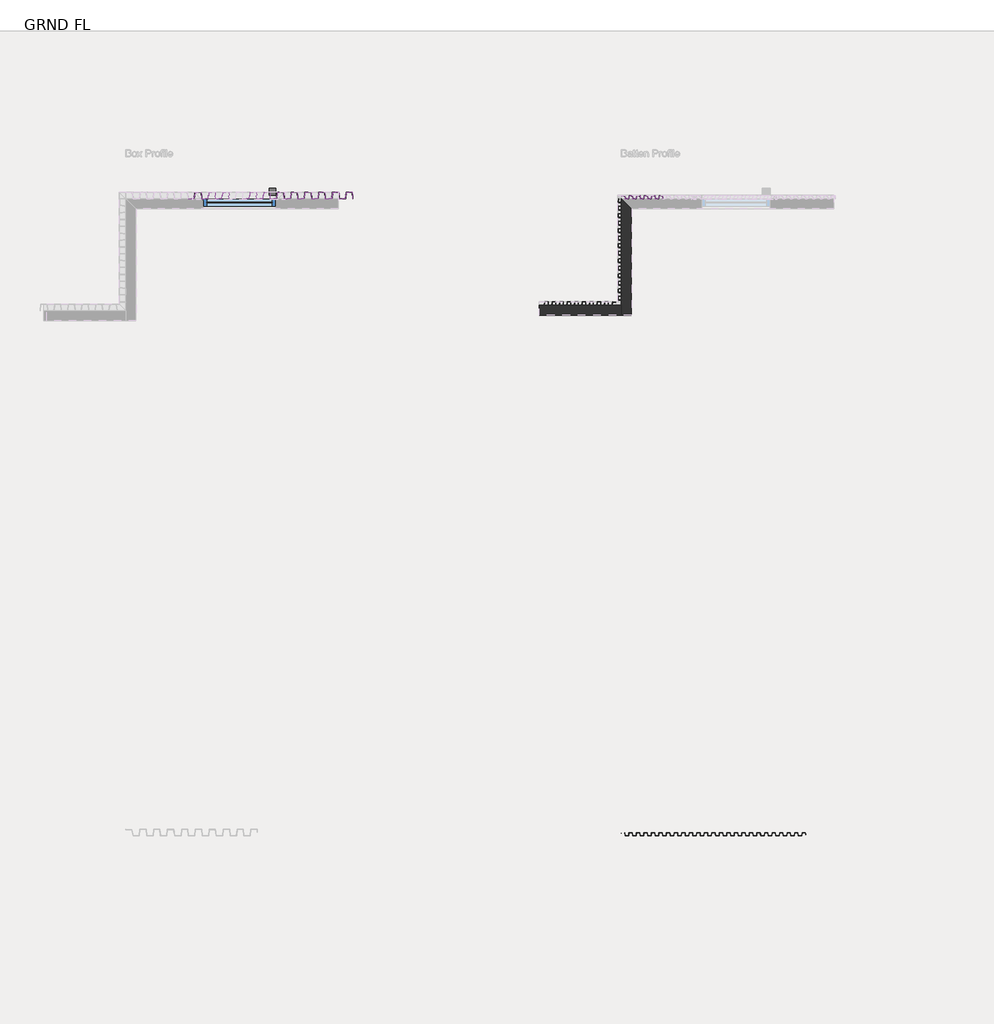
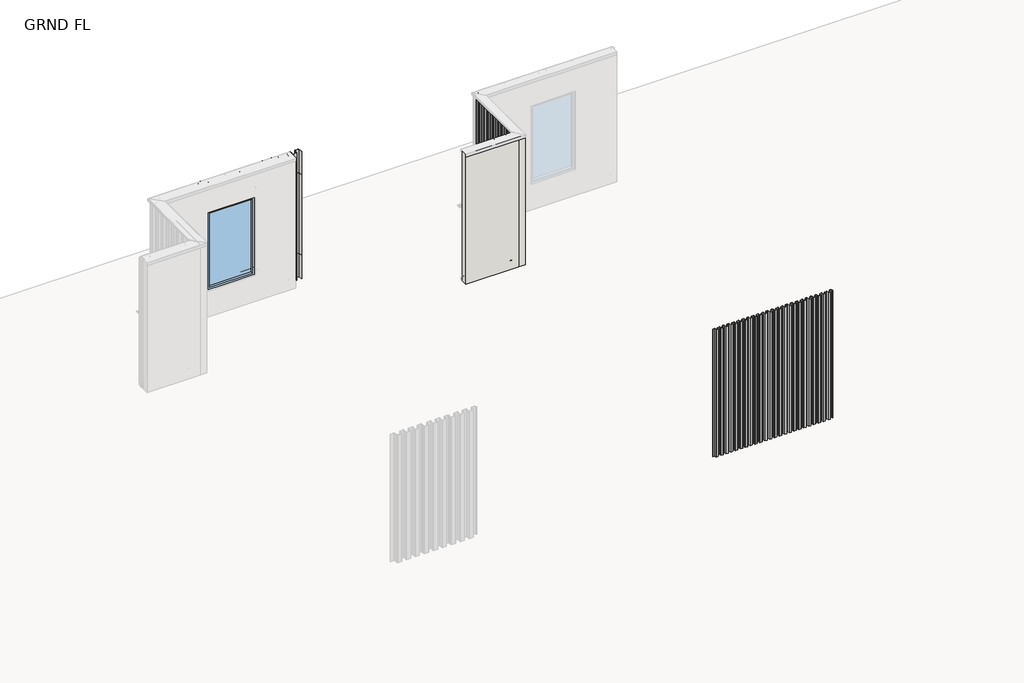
# One storey, part 5 of 13: 101 members, 2 walls, 1 plate, 1 window.
"""IFC4 building model written with IfcOpenShell, lengths in millimetres."""

from ifc_helpers import new_model, si_unit, frame, origin, place, context, project, spatial, polyline, outline, extrude, faceted_brep, transform, mapped, element, save
from components import rectangular_mullion_2d550053, rectangular_mullion_f7867c98, rectangular_mullion_3ec16531, rectangular_mullion_c30dfc19, rectangular_mullion_5f9ddbf5, rectangular_mullion_41e84d55, rectangular_mullion_7cdc1a84, rectangular_mullion_3e9ea180, rectangular_mullion_119e265c, rectangular_mullion_f8ecf559, rectangular_mullion_e0d82e72, rectangular_mullion_8aa512d7, rectangular_mullion_19053268, rectangular_mullion_ffc48b18, rectangular_mullion_33439367, rectangular_mullion_dff8aeb3, rectangular_mullion_1d10df30, rectangular_mullion_365e98fb, rectangular_mullion_46f464e6, rectangular_mullion_b07479b3, empty_system_panel_empty_35289bfe, window_83078953

model = new_model("IFC4")

# Units and contexts
model_context = context("Model", 3, world=origin())
ifc_project = project(units=[si_unit("LENGTHUNIT", "METRE", prefix="MILLI")], contexts=[model_context])

# Site, building, storey
site = spatial("IfcSite", under=ifc_project)
building = spatial("IfcBuilding", under=site)
storey = spatial("IfcBuildingStorey", under=building, Name="GRND FL", Elevation=35277.5920148)

# Members
placement = place(None, origin())
rectangular_mullion_shape = rectangular_mullion_2d550053(model_context)
element("IfcMember", 1, ObjectType="Rectangular Mullion : CD_NINELINE_Box Intermediate", at=placement, inside=storey, context=model_context, shape_type="MappedRepresentation", body=[
    mapped(rectangular_mullion_shape, transform((63731.961255, -3745.6146039, 35330.5920148), x_axis=(1.0, 0.0, 0.0), y_axis=(0.0, -1.0, 0.0), z_axis=(0.0, 0.0, -1.0))),
])
element("IfcMember", 2, ObjectType="Rectangular Mullion : CD_NINELINE_Box Intermediate", at=placement, inside=storey, context=model_context, shape_type="MappedRepresentation", body=[
    mapped(rectangular_mullion_shape, transform((63925.961255, -3745.6146039, 35330.5920148), x_axis=(1.0, 0.0, 0.0), y_axis=(0.0, -1.0, 0.0), z_axis=(0.0, 0.0, -1.0))),
])
element("IfcMember", 3, ObjectType="Rectangular Mullion : CD_NINELINE_Box Intermediate", at=placement, inside=storey, context=model_context, shape_type="MappedRepresentation", body=[
    mapped(rectangular_mullion_shape, transform((64119.961255, -3745.6146039, 35330.5920148), x_axis=(1.0, 0.0, 0.0), y_axis=(0.0, -1.0, 0.0), z_axis=(0.0, 0.0, -1.0))),
])
element("IfcMember", 4, ObjectType="Rectangular Mullion : CD_NINELINE_Box Intermediate", at=placement, inside=storey, context=model_context, shape_type="MappedRepresentation", body=[
    mapped(rectangular_mullion_shape, transform((64313.961255, -3745.6146039, 35330.5920148), x_axis=(1.0, 0.0, 0.0), y_axis=(0.0, -1.0, 0.0), z_axis=(0.0, 0.0, -1.0))),
])
element("IfcMember", 5, ObjectType="Rectangular Mullion : CD_NINELINE_Box Intermediate", at=placement, inside=storey, context=model_context, shape_type="MappedRepresentation", body=[
    mapped(rectangular_mullion_shape, transform((64507.961255, -3745.6146039, 35330.5920148), x_axis=(1.0, 0.0, 0.0), y_axis=(0.0, -1.0, 0.0), z_axis=(0.0, 0.0, -1.0))),
])
element("IfcMember", 6, ObjectType="Rectangular Mullion : CD_NINELINE_Box Intermediate", at=placement, inside=storey, context=model_context, shape_type="MappedRepresentation", body=[
    mapped(rectangular_mullion_shape, transform((63149.961255, -3745.6146039, 35330.5920148), x_axis=(1.0, 0.0, 0.0), y_axis=(0.0, -1.0, 0.0), z_axis=(0.0, 0.0, -1.0))),
])
element("IfcMember", 7, ObjectType="Rectangular Mullion : CD_NINELINE_Box Intermediate", at=placement, inside=storey, context=model_context, shape_type="MappedRepresentation", body=[
    mapped(rectangular_mullion_shape, transform((63343.961255, -3745.6146039, 35330.5920148), x_axis=(1.0, 0.0, 0.0), y_axis=(0.0, -1.0, 0.0), z_axis=(0.0, 0.0, -1.0))),
])
element("IfcMember", 8, ObjectType="Rectangular Mullion : CD_NINELINE_Box Intermediate", at=placement, inside=storey, context=model_context, shape_type="MappedRepresentation", body=[
    mapped(rectangular_mullion_shape, transform((63537.961255, -3745.6146039, 35330.5920148), x_axis=(1.0, 0.0, 0.0), y_axis=(0.0, -1.0, 0.0), z_axis=(0.0, 0.0, -1.0))),
])
element("IfcMember", 9, ObjectType="Rectangular Mullion : CD_NINELINE_Box Intermediate", at=placement, inside=storey, context=model_context, shape_type="MappedRepresentation", body=[
    mapped(rectangular_mullion_shape, transform((62955.961255, -3745.6146039, 35330.5920148), x_axis=(1.0, 0.0, 0.0), y_axis=(0.0, -1.0, 0.0), z_axis=(0.0, 0.0, -1.0))),
])
rectangular_mullion_2_shape = rectangular_mullion_f7867c98(model_context)
element("IfcMember", 10, ObjectType="Rectangular Mullion : CD_NINELINE_Box End", at=placement, inside=storey, context=model_context, shape_type="MappedRepresentation", body=[
    mapped(rectangular_mullion_2_shape, transform((64508.9961337, -3745.6146039, 35330.5920148), x_axis=(1.0, 0.0, 0.0), y_axis=(0.0, -1.0, 0.0), z_axis=(0.0, 0.0, -1.0))),
])
rectangular_mullion_3_shape = rectangular_mullion_3ec16531(model_context)
element("IfcMember", 11, ObjectType="Rectangular Mullion : CD_NINELINE_Box Intermediate", at=placement, inside=storey, context=model_context, shape_type="MappedRepresentation", body=[
    mapped(rectangular_mullion_3_shape, transform((63731.961255, -3745.6146039, 37732.5920148), x_axis=(1.0, 0.0, 0.0), y_axis=(0.0, -1.0, 0.0), z_axis=(0.0, 0.0, -1.0))),
])
element("IfcMember", 12, ObjectType="Rectangular Mullion : CD_NINELINE_Box Intermediate", at=placement, inside=storey, context=model_context, shape_type="MappedRepresentation", body=[
    mapped(rectangular_mullion_3_shape, transform((63925.961255, -3745.6146039, 37732.5920148), x_axis=(1.0, 0.0, 0.0), y_axis=(0.0, -1.0, 0.0), z_axis=(0.0, 0.0, -1.0))),
])
element("IfcMember", 13, ObjectType="Rectangular Mullion : CD_NINELINE_Box Intermediate", at=placement, inside=storey, context=model_context, shape_type="MappedRepresentation", body=[
    mapped(rectangular_mullion_3_shape, transform((64119.961255, -3745.6146039, 37732.5920148), x_axis=(1.0, 0.0, 0.0), y_axis=(0.0, -1.0, 0.0), z_axis=(0.0, 0.0, -1.0))),
])
element("IfcMember", 14, ObjectType="Rectangular Mullion : CD_NINELINE_Box Intermediate", at=placement, inside=storey, context=model_context, shape_type="MappedRepresentation", body=[
    mapped(rectangular_mullion_3_shape, transform((64313.961255, -3745.6146039, 37732.5920148), x_axis=(1.0, 0.0, 0.0), y_axis=(0.0, -1.0, 0.0), z_axis=(0.0, 0.0, -1.0))),
])
element("IfcMember", 15, ObjectType="Rectangular Mullion : CD_NINELINE_Box Intermediate", at=placement, inside=storey, context=model_context, shape_type="MappedRepresentation", body=[
    mapped(rectangular_mullion_3_shape, transform((64507.961255, -3745.6146039, 37732.5920148), x_axis=(1.0, 0.0, 0.0), y_axis=(0.0, -1.0, 0.0), z_axis=(0.0, 0.0, -1.0))),
])
rectangular_mullion_4_shape = rectangular_mullion_c30dfc19(model_context)
element("IfcMember", 16, ObjectType="Rectangular Mullion : CD_NINELINE_Box Intermediate", at=placement, inside=storey, context=model_context, shape_type="MappedRepresentation", body=[
    mapped(rectangular_mullion_4_shape, transform((63731.961255, -3745.6146039, 35872.5920148), x_axis=(1.0, 0.0, 0.0), y_axis=(0.0, -1.0, 0.0), z_axis=(0.0, 0.0, -1.0))),
])
element("IfcMember", 17, ObjectType="Rectangular Mullion : CD_NINELINE_Box Intermediate", at=placement, inside=storey, context=model_context, shape_type="MappedRepresentation", body=[
    mapped(rectangular_mullion_4_shape, transform((63925.961255, -3745.6146039, 35872.5920148), x_axis=(1.0, 0.0, 0.0), y_axis=(0.0, -1.0, 0.0), z_axis=(0.0, 0.0, -1.0))),
])
element("IfcMember", 18, ObjectType="Rectangular Mullion : CD_NINELINE_Box Intermediate", at=placement, inside=storey, context=model_context, shape_type="MappedRepresentation", body=[
    mapped(rectangular_mullion_4_shape, transform((64119.961255, -3745.6146039, 35872.5920148), x_axis=(1.0, 0.0, 0.0), y_axis=(0.0, -1.0, 0.0), z_axis=(0.0, 0.0, -1.0))),
])
element("IfcMember", 19, ObjectType="Rectangular Mullion : CD_NINELINE_Box Intermediate", at=placement, inside=storey, context=model_context, shape_type="MappedRepresentation", body=[
    mapped(rectangular_mullion_4_shape, transform((64313.961255, -3745.6146039, 35872.5920148), x_axis=(1.0, 0.0, 0.0), y_axis=(0.0, -1.0, 0.0), z_axis=(0.0, 0.0, -1.0))),
])
element("IfcMember", 20, ObjectType="Rectangular Mullion : CD_NINELINE_Box Intermediate", at=placement, inside=storey, context=model_context, shape_type="MappedRepresentation", body=[
    mapped(rectangular_mullion_4_shape, transform((64507.961255, -3745.6146039, 35872.5920148), x_axis=(1.0, 0.0, 0.0), y_axis=(0.0, -1.0, 0.0), z_axis=(0.0, 0.0, -1.0))),
])
element("IfcMember", 21, ObjectType="Rectangular Mullion : CD_NINELINE_Box Intermediate", at=placement, inside=storey, context=model_context, shape_type="MappedRepresentation", body=[
    mapped(rectangular_mullion_3_shape, transform((62761.961255, -3745.6146039, 37732.5920148), x_axis=(1.0, 0.0, 0.0), y_axis=(0.0, -1.0, 0.0), z_axis=(0.0, 0.0, -1.0))),
])
element("IfcMember", 22, ObjectType="Rectangular Mullion : CD_NINELINE_Box Intermediate", at=placement, inside=storey, context=model_context, shape_type="MappedRepresentation", body=[
    mapped(rectangular_mullion_3_shape, transform((63149.961255, -3745.6146039, 37732.5920148), x_axis=(1.0, 0.0, 0.0), y_axis=(0.0, -1.0, 0.0), z_axis=(0.0, 0.0, -1.0))),
])
element("IfcMember", 23, ObjectType="Rectangular Mullion : CD_NINELINE_Box Intermediate", at=placement, inside=storey, context=model_context, shape_type="MappedRepresentation", body=[
    mapped(rectangular_mullion_3_shape, transform((63343.961255, -3745.6146039, 37732.5920148), x_axis=(1.0, 0.0, 0.0), y_axis=(0.0, -1.0, 0.0), z_axis=(0.0, 0.0, -1.0))),
])
element("IfcMember", 24, ObjectType="Rectangular Mullion : CD_NINELINE_Box Intermediate", at=placement, inside=storey, context=model_context, shape_type="MappedRepresentation", body=[
    mapped(rectangular_mullion_3_shape, transform((62373.961255, -3745.6146039, 37732.5920148), x_axis=(1.0, 0.0, 0.0), y_axis=(0.0, -1.0, 0.0), z_axis=(0.0, 0.0, -1.0))),
])
element("IfcMember", 25, ObjectType="Rectangular Mullion : CD_NINELINE_Box Intermediate", at=placement, inside=storey, context=model_context, shape_type="MappedRepresentation", body=[
    mapped(rectangular_mullion_3_shape, transform((62567.961255, -3745.6146039, 37732.5920148), x_axis=(1.0, 0.0, 0.0), y_axis=(0.0, -1.0, 0.0), z_axis=(0.0, 0.0, -1.0))),
])
element("IfcMember", 26, ObjectType="Rectangular Mullion : CD_NINELINE_Box Intermediate", at=placement, inside=storey, context=model_context, shape_type="MappedRepresentation", body=[
    mapped(rectangular_mullion_3_shape, transform((63537.961255, -3745.6146039, 37732.5920148), x_axis=(1.0, 0.0, 0.0), y_axis=(0.0, -1.0, 0.0), z_axis=(0.0, 0.0, -1.0))),
])
rectangular_mullion_5_shape = rectangular_mullion_5f9ddbf5(model_context)
element("IfcMember", 27, ObjectType="Rectangular Mullion : CD_NINELINE_Box End", at=placement, inside=storey, context=model_context, shape_type="MappedRepresentation", body=[
    mapped(rectangular_mullion_5_shape, transform((64508.9961337, -3745.6146039, 37732.5920148), x_axis=(1.0, 0.0, 0.0), y_axis=(0.0, -1.0, 0.0), z_axis=(0.0, 0.0, -1.0))),
])
rectangular_mullion_6_shape = rectangular_mullion_41e84d55(model_context)
element("IfcMember", 28, ObjectType="Rectangular Mullion : CD_NINELINE_Box End", at=placement, inside=storey, context=model_context, shape_type="MappedRepresentation", body=[
    mapped(rectangular_mullion_6_shape, transform((64508.9961337, -3745.6146039, 35872.5920148), x_axis=(1.0, 0.0, 0.0), y_axis=(0.0, -1.0, 0.0), z_axis=(0.0, 0.0, -1.0))),
])
rectangular_mullion_7_shape = rectangular_mullion_7cdc1a84(model_context)
element("IfcMember", 29, ObjectType="Rectangular Mullion : CD_NINELINE_Box Intermediate 20mm pan", at=placement, inside=storey, context=model_context, shape_type="MappedRepresentation", body=[
    mapped(rectangular_mullion_7_shape, transform((63537.961255, -3745.6146039, 35872.5920148), x_axis=(1.0, 0.0, 0.0), y_axis=(0.0, -1.0, 0.0), z_axis=(0.0, 0.0, -1.0))),
])
rectangular_mullion_8_shape = rectangular_mullion_3e9ea180(model_context)
element("IfcMember", 30, ObjectType="Rectangular Mullion : CD_NINELINE_Box Intermediate w Extension", at=placement, inside=storey, context=model_context, shape_type="MappedRepresentation", body=[
    mapped(rectangular_mullion_8_shape, transform((62373.961255, -3745.6146039, 35872.5920148), x_axis=(1.0, 0.0, 0.0), y_axis=(0.0, -1.0, 0.0), z_axis=(0.0, 0.0, -1.0))),
])
rectangular_mullion_9_shape = rectangular_mullion_119e265c(model_context)
element("IfcMember", 31, ObjectType="Rectangular Mullion : CD_NINELINE_Batten Intermediate", at=placement, inside=storey, context=model_context, shape_type="MappedRepresentation", body=[
    mapped(rectangular_mullion_9_shape, transform((68549.9888682, -3745.6146039, 37732.5920148), x_axis=(1.0, 0.0, 0.0), y_axis=(0.0, -1.0, 0.0), z_axis=(0.0, 0.0, -1.0))),
])
element("IfcMember", 32, ObjectType="Rectangular Mullion : CD_NINELINE_Batten Intermediate", at=placement, inside=storey, context=model_context, shape_type="MappedRepresentation", body=[
    mapped(rectangular_mullion_9_shape, transform((68655.9888682, -3745.6146039, 37732.5920148), x_axis=(1.0, 0.0, 0.0), y_axis=(0.0, -1.0, 0.0), z_axis=(0.0, 0.0, -1.0))),
])
element("IfcMember", 33, ObjectType="Rectangular Mullion : CD_NINELINE_Batten Intermediate", at=placement, inside=storey, context=model_context, shape_type="MappedRepresentation", body=[
    mapped(rectangular_mullion_9_shape, transform((68761.9888682, -3745.6146039, 37732.5920148), x_axis=(1.0, 0.0, 0.0), y_axis=(0.0, -1.0, 0.0), z_axis=(0.0, 0.0, -1.0))),
])
element("IfcMember", 34, ObjectType="Rectangular Mullion : CD_NINELINE_Batten Intermediate", at=placement, inside=storey, context=model_context, shape_type="MappedRepresentation", body=[
    mapped(rectangular_mullion_9_shape, transform((68867.9888682, -3745.6146039, 37732.5920148), x_axis=(1.0, 0.0, 0.0), y_axis=(0.0, -1.0, 0.0), z_axis=(0.0, 0.0, -1.0))),
])
element("IfcMember", 35, ObjectType="Rectangular Mullion : CD_NINELINE_Batten Intermediate", at=placement, inside=storey, context=model_context, shape_type="MappedRepresentation", body=[
    mapped(rectangular_mullion_9_shape, transform((68973.9888682, -3745.6146039, 37732.5920148), x_axis=(1.0, 0.0, 0.0), y_axis=(0.0, -1.0, 0.0), z_axis=(0.0, 0.0, -1.0))),
])
rectangular_mullion_10_shape = rectangular_mullion_f8ecf559(model_context)
element("IfcMember", 36, ObjectType="Rectangular Mullion : CD_NINELINE_Batten Start", at=placement, inside=storey, context=model_context, shape_type="MappedRepresentation", body=[
    mapped(rectangular_mullion_10_shape, transform((68495.5859473, -3745.6146039, 38272.5920148), x_axis=(-1.0, 0.0, 0.0), y_axis=(0.0, -1.0, 0.0), z_axis=(0.0, 0.0, 1.0))),
])
rectangular_mullion_11_shape = rectangular_mullion_e0d82e72(model_context)
element("IfcMember", 37, ObjectType="Rectangular Mullion : CD_NINELINE_Batten Intermediate", at=placement, inside=storey, context=model_context, shape_type="MappedRepresentation", body=[
    mapped(rectangular_mullion_11_shape, transform((68549.9888682, -3745.6146039, 35330.5920148), x_axis=(1.0, 0.0, 0.0), y_axis=(0.0, -1.0, 0.0), z_axis=(0.0, 0.0, -1.0))),
])
element("IfcMember", 38, ObjectType="Rectangular Mullion : CD_NINELINE_Batten Intermediate", at=placement, inside=storey, context=model_context, shape_type="MappedRepresentation", body=[
    mapped(rectangular_mullion_11_shape, transform((68655.9888682, -3745.6146039, 35330.5920148), x_axis=(1.0, 0.0, 0.0), y_axis=(0.0, -1.0, 0.0), z_axis=(0.0, 0.0, -1.0))),
])
element("IfcMember", 39, ObjectType="Rectangular Mullion : CD_NINELINE_Batten Intermediate", at=placement, inside=storey, context=model_context, shape_type="MappedRepresentation", body=[
    mapped(rectangular_mullion_11_shape, transform((68761.9888682, -3745.6146039, 35330.5920148), x_axis=(1.0, 0.0, 0.0), y_axis=(0.0, -1.0, 0.0), z_axis=(0.0, 0.0, -1.0))),
])
element("IfcMember", 40, ObjectType="Rectangular Mullion : CD_NINELINE_Batten Intermediate", at=placement, inside=storey, context=model_context, shape_type="MappedRepresentation", body=[
    mapped(rectangular_mullion_11_shape, transform((68867.9888682, -3745.6146039, 35330.5920148), x_axis=(1.0, 0.0, 0.0), y_axis=(0.0, -1.0, 0.0), z_axis=(0.0, 0.0, -1.0))),
])
element("IfcMember", 41, ObjectType="Rectangular Mullion : CD_NINELINE_Batten Intermediate", at=placement, inside=storey, context=model_context, shape_type="MappedRepresentation", body=[
    mapped(rectangular_mullion_11_shape, transform((68973.9888682, -3745.6146039, 35330.5920148), x_axis=(1.0, 0.0, 0.0), y_axis=(0.0, -1.0, 0.0), z_axis=(0.0, 0.0, -1.0))),
])
rectangular_mullion_12_shape = rectangular_mullion_8aa512d7(model_context)
element("IfcMember", 42, ObjectType="Rectangular Mullion : CD_NINELINE_Batten Intermediate", at=placement, inside=storey, context=model_context, shape_type="MappedRepresentation", body=[
    mapped(rectangular_mullion_12_shape, transform((68549.9888682, -3745.6146039, 35877.5920148), x_axis=(1.0, 0.0, 0.0), y_axis=(0.0, -1.0, 0.0), z_axis=(0.0, 0.0, -1.0))),
])
element("IfcMember", 43, ObjectType="Rectangular Mullion : CD_NINELINE_Batten Intermediate", at=placement, inside=storey, context=model_context, shape_type="MappedRepresentation", body=[
    mapped(rectangular_mullion_12_shape, transform((68655.9888682, -3745.6146039, 35877.5920148), x_axis=(1.0, 0.0, 0.0), y_axis=(0.0, -1.0, 0.0), z_axis=(0.0, 0.0, -1.0))),
])
element("IfcMember", 44, ObjectType="Rectangular Mullion : CD_NINELINE_Batten Intermediate", at=placement, inside=storey, context=model_context, shape_type="MappedRepresentation", body=[
    mapped(rectangular_mullion_12_shape, transform((68761.9888682, -3745.6146039, 35877.5920148), x_axis=(1.0, 0.0, 0.0), y_axis=(0.0, -1.0, 0.0), z_axis=(0.0, 0.0, -1.0))),
])
element("IfcMember", 45, ObjectType="Rectangular Mullion : CD_NINELINE_Batten Intermediate", at=placement, inside=storey, context=model_context, shape_type="MappedRepresentation", body=[
    mapped(rectangular_mullion_12_shape, transform((68867.9888682, -3745.6146039, 35877.5920148), x_axis=(1.0, 0.0, 0.0), y_axis=(0.0, -1.0, 0.0), z_axis=(0.0, 0.0, -1.0))),
])
element("IfcMember", 46, ObjectType="Rectangular Mullion : CD_NINELINE_Batten Intermediate", at=placement, inside=storey, context=model_context, shape_type="MappedRepresentation", body=[
    mapped(rectangular_mullion_12_shape, transform((68973.9888682, -3745.6146039, 35877.5920148), x_axis=(1.0, 0.0, 0.0), y_axis=(0.0, -1.0, 0.0), z_axis=(0.0, 0.0, -1.0))),
])
rectangular_mullion_13_shape = rectangular_mullion_19053268(model_context)
element("IfcMember", 47, ObjectType="Rectangular Mullion : CD_NINELINE_Batten Start", at=placement, inside=storey, context=model_context, shape_type="MappedRepresentation", body=[
    mapped(rectangular_mullion_13_shape, transform((68495.5859473, -3745.6146039, 37732.5920148), x_axis=(-1.0, 0.0, 0.0), y_axis=(0.0, -1.0, 0.0), z_axis=(0.0, 0.0, 1.0))),
])
rectangular_mullion_14_shape = rectangular_mullion_ffc48b18(model_context)
element("IfcMember", 48, ObjectType="Rectangular Mullion : CD_NINELINE_Batten Start", at=placement, inside=storey, context=model_context, shape_type="MappedRepresentation", body=[
    mapped(rectangular_mullion_14_shape, transform((68495.5859473, -3745.6146039, 35877.5920148), x_axis=(-1.0, 0.0, 0.0), y_axis=(0.0, -1.0, 0.0), z_axis=(0.0, 0.0, 1.0))),
])
rectangular_mullion_15_shape = rectangular_mullion_33439367(model_context)
element("IfcMember", 49, ObjectType="Rectangular Mullion : CD_NINELINE_Batten Intermediate", at=placement, inside=storey, context=model_context, shape_type="MappedRepresentation", body=[
    mapped(rectangular_mullion_15_shape, transform((67725.0926307, -5248.1146039, 35330.5920148), x_axis=(-1.0, 0.0, 0.0), y_axis=(0.0, 1.0, 0.0), z_axis=(0.0, 0.0, -1.0))),
])
element("IfcMember", 50, ObjectType="Rectangular Mullion : CD_NINELINE_Batten Intermediate", at=placement, inside=storey, context=model_context, shape_type="MappedRepresentation", body=[
    mapped(rectangular_mullion_15_shape, transform((67619.0926307, -5248.1146039, 35330.5920148), x_axis=(-1.0, 0.0, 0.0), y_axis=(0.0, 1.0, 0.0), z_axis=(0.0, 0.0, -1.0))),
])
element("IfcMember", 51, ObjectType="Rectangular Mullion : CD_NINELINE_Batten Intermediate", at=placement, inside=storey, context=model_context, shape_type="MappedRepresentation", body=[
    mapped(rectangular_mullion_15_shape, transform((67513.0926307, -5248.1146039, 35330.5920148), x_axis=(-1.0, 0.0, 0.0), y_axis=(0.0, 1.0, 0.0), z_axis=(0.0, 0.0, -1.0))),
])
element("IfcMember", 52, ObjectType="Rectangular Mullion : CD_NINELINE_Batten Intermediate", at=placement, inside=storey, context=model_context, shape_type="MappedRepresentation", body=[
    mapped(rectangular_mullion_15_shape, transform((67831.0926307, -5248.1146039, 35330.5920148), x_axis=(-1.0, 0.0, 0.0), y_axis=(0.0, 1.0, 0.0), z_axis=(0.0, 0.0, -1.0))),
])
element("IfcMember", 53, ObjectType="Rectangular Mullion : CD_NINELINE_Batten Intermediate", at=placement, inside=storey, context=model_context, shape_type="MappedRepresentation", body=[
    mapped(rectangular_mullion_15_shape, transform((68493.6836337, -4225.9637895, 35330.5920148), x_axis=(0.0, -1.0, 0.0), y_axis=(-1.0, 0.0, 0.0), z_axis=(0.0, 0.0, -1.0))),
])
element("IfcMember", 54, ObjectType="Rectangular Mullion : CD_NINELINE_Batten Intermediate", at=placement, inside=storey, context=model_context, shape_type="MappedRepresentation", body=[
    mapped(rectangular_mullion_15_shape, transform((68493.6836337, -4331.9637895, 35330.5920148), x_axis=(0.0, -1.0, 0.0), y_axis=(-1.0, 0.0, 0.0), z_axis=(0.0, 0.0, -1.0))),
])
element("IfcMember", 55, ObjectType="Rectangular Mullion : CD_NINELINE_Batten Intermediate", at=placement, inside=storey, context=model_context, shape_type="MappedRepresentation", body=[
    mapped(rectangular_mullion_15_shape, transform((68493.6836337, -4119.9637895, 35330.5920148), x_axis=(0.0, -1.0, 0.0), y_axis=(-1.0, 0.0, 0.0), z_axis=(0.0, 0.0, -1.0))),
])
element("IfcMember", 56, ObjectType="Rectangular Mullion : CD_NINELINE_Batten Intermediate", at=placement, inside=storey, context=model_context, shape_type="MappedRepresentation", body=[
    mapped(rectangular_mullion_15_shape, transform((68493.6836337, -4013.9637895, 35330.5920148), x_axis=(0.0, -1.0, 0.0), y_axis=(-1.0, 0.0, 0.0), z_axis=(0.0, 0.0, -1.0))),
])
element("IfcMember", 57, ObjectType="Rectangular Mullion : CD_NINELINE_Batten Intermediate", at=placement, inside=storey, context=model_context, shape_type="MappedRepresentation", body=[
    mapped(rectangular_mullion_15_shape, transform((68493.6836337, -3907.9637895, 35330.5920148), x_axis=(0.0, -1.0, 0.0), y_axis=(-1.0, 0.0, 0.0), z_axis=(0.0, 0.0, -1.0))),
])
element("IfcMember", 58, ObjectType="Rectangular Mullion : CD_NINELINE_Batten Intermediate", at=placement, inside=storey, context=model_context, shape_type="MappedRepresentation", body=[
    mapped(rectangular_mullion_15_shape, transform((68493.6836337, -3801.9637895, 35330.5920148), x_axis=(0.0, -1.0, 0.0), y_axis=(-1.0, 0.0, 0.0), z_axis=(0.0, 0.0, -1.0))),
])
element("IfcMember", 59, ObjectType="Rectangular Mullion : CD_NINELINE_Batten Intermediate", at=placement, inside=storey, context=model_context, shape_type="MappedRepresentation", body=[
    mapped(rectangular_mullion_15_shape, transform((68493.6836337, -4437.9637895, 35330.5920148), x_axis=(0.0, -1.0, 0.0), y_axis=(-1.0, 0.0, 0.0), z_axis=(0.0, 0.0, -1.0))),
])
element("IfcMember", 60, ObjectType="Rectangular Mullion : CD_NINELINE_Batten Intermediate", at=placement, inside=storey, context=model_context, shape_type="MappedRepresentation", body=[
    mapped(rectangular_mullion_15_shape, transform((67937.0926307, -5248.1146039, 35330.5920148), x_axis=(-1.0, 0.0, 0.0), y_axis=(0.0, 1.0, 0.0), z_axis=(0.0, 0.0, -1.0))),
])
element("IfcMember", 61, ObjectType="Rectangular Mullion : CD_NINELINE_Batten Intermediate", at=placement, inside=storey, context=model_context, shape_type="MappedRepresentation", body=[
    mapped(rectangular_mullion_15_shape, transform((68493.6836337, -4543.9637895, 35330.5920148), x_axis=(0.0, -1.0, 0.0), y_axis=(-1.0, 0.0, 0.0), z_axis=(0.0, 0.0, -1.0))),
])
element("IfcMember", 62, ObjectType="Rectangular Mullion : CD_NINELINE_Batten Intermediate", at=placement, inside=storey, context=model_context, shape_type="MappedRepresentation", body=[
    mapped(rectangular_mullion_15_shape, transform((68493.6836337, -4649.9637895, 35330.5920148), x_axis=(0.0, -1.0, 0.0), y_axis=(-1.0, 0.0, 0.0), z_axis=(0.0, 0.0, -1.0))),
])
element("IfcMember", 63, ObjectType="Rectangular Mullion : CD_NINELINE_Batten Intermediate", at=placement, inside=storey, context=model_context, shape_type="MappedRepresentation", body=[
    mapped(rectangular_mullion_15_shape, transform((68493.6836337, -4755.9637895, 35330.5920148), x_axis=(0.0, -1.0, 0.0), y_axis=(-1.0, 0.0, 0.0), z_axis=(0.0, 0.0, -1.0))),
])
element("IfcMember", 64, ObjectType="Rectangular Mullion : CD_NINELINE_Batten Intermediate", at=placement, inside=storey, context=model_context, shape_type="MappedRepresentation", body=[
    mapped(rectangular_mullion_15_shape, transform((68493.6836337, -4861.9637895, 35330.5920148), x_axis=(0.0, -1.0, 0.0), y_axis=(-1.0, 0.0, 0.0), z_axis=(0.0, 0.0, -1.0))),
])
element("IfcMember", 65, ObjectType="Rectangular Mullion : CD_NINELINE_Batten Intermediate", at=placement, inside=storey, context=model_context, shape_type="MappedRepresentation", body=[
    mapped(rectangular_mullion_15_shape, transform((68493.6836337, -4967.9637895, 35330.5920148), x_axis=(0.0, -1.0, 0.0), y_axis=(-1.0, 0.0, 0.0), z_axis=(0.0, 0.0, -1.0))),
])
element("IfcMember", 66, ObjectType="Rectangular Mullion : CD_NINELINE_Batten Intermediate", at=placement, inside=storey, context=model_context, shape_type="MappedRepresentation", body=[
    mapped(rectangular_mullion_15_shape, transform((68493.6836337, -5073.9637895, 35330.5920148), x_axis=(0.0, -1.0, 0.0), y_axis=(-1.0, 0.0, 0.0), z_axis=(0.0, 0.0, -1.0))),
])
element("IfcMember", 67, ObjectType="Rectangular Mullion : CD_NINELINE_Batten Intermediate", at=placement, inside=storey, context=model_context, shape_type="MappedRepresentation", body=[
    mapped(rectangular_mullion_15_shape, transform((68043.0926307, -5248.1146039, 35330.5920148), x_axis=(-1.0, 0.0, 0.0), y_axis=(0.0, 1.0, 0.0), z_axis=(0.0, 0.0, -1.0))),
])
element("IfcMember", 68, ObjectType="Rectangular Mullion : CD_NINELINE_Batten Intermediate", at=placement, inside=storey, context=model_context, shape_type="MappedRepresentation", body=[
    mapped(rectangular_mullion_15_shape, transform((68149.0926307, -5248.1146039, 35330.5920148), x_axis=(-1.0, 0.0, 0.0), y_axis=(0.0, 1.0, 0.0), z_axis=(0.0, 0.0, -1.0))),
])
element("IfcMember", 69, ObjectType="Rectangular Mullion : CD_NINELINE_Batten Intermediate", at=placement, inside=storey, context=model_context, shape_type="MappedRepresentation", body=[
    mapped(rectangular_mullion_15_shape, transform((68255.0926307, -5248.1146039, 35330.5920148), x_axis=(-1.0, 0.0, 0.0), y_axis=(0.0, 1.0, 0.0), z_axis=(0.0, 0.0, -1.0))),
])
element("IfcMember", 70, ObjectType="Rectangular Mullion : CD_NINELINE_Batten Intermediate", at=placement, inside=storey, context=model_context, shape_type="MappedRepresentation", body=[
    mapped(rectangular_mullion_15_shape, transform((68361.0926307, -5248.1146039, 35330.5920148), x_axis=(-1.0, 0.0, 0.0), y_axis=(0.0, 1.0, 0.0), z_axis=(0.0, 0.0, -1.0))),
])
rectangular_mullion_16_shape = rectangular_mullion_dff8aeb3(model_context)
element("IfcMember", 71, ObjectType="Rectangular Mullion : CD_NINELINE_Batten Start", at=placement, inside=storey, context=model_context, shape_type="MappedRepresentation", body=[
    mapped(rectangular_mullion_16_shape, transform((68415.4955515, -5248.1146039, 38272.5920148), x_axis=(1.0, 0.0, 0.0), y_axis=(0.0, 1.0, 0.0), z_axis=(0.0, 0.0, 1.0))),
])
element("IfcMember", 72, ObjectType="Rectangular Mullion : CD_NINELINE_Batten Start", at=placement, inside=storey, context=model_context, shape_type="MappedRepresentation", body=[
    mapped(rectangular_mullion_16_shape, transform((68493.6836337, -3747.5608687, 38272.5920148), x_axis=(0.0, 1.0, 0.0), y_axis=(-1.0, 0.0, 0.0), z_axis=(0.0, 0.0, 1.0))),
])
rectangular_mullion_17_shape = rectangular_mullion_1d10df30(model_context)
element("IfcMember", 73, ObjectType="Rectangular Mullion : CD_NINELINE_Batten Intermediate", at=placement, inside=storey, context=model_context, shape_type="MappedRepresentation", body=[
    mapped(rectangular_mullion_17_shape, transform((68548.0402438, -12745.6146039, 35330.5920148), x_axis=(1.0, 0.0, 0.0), y_axis=(0.0, -1.0, 0.0), z_axis=(0.0, 0.0, -1.0))),
])
element("IfcMember", 74, ObjectType="Rectangular Mullion : CD_NINELINE_Batten Intermediate", at=placement, inside=storey, context=model_context, shape_type="MappedRepresentation", body=[
    mapped(rectangular_mullion_17_shape, transform((68654.0402438, -12745.6146039, 35330.5920148), x_axis=(1.0, 0.0, 0.0), y_axis=(0.0, -1.0, 0.0), z_axis=(0.0, 0.0, -1.0))),
])
element("IfcMember", 75, ObjectType="Rectangular Mullion : CD_NINELINE_Batten Intermediate", at=placement, inside=storey, context=model_context, shape_type="MappedRepresentation", body=[
    mapped(rectangular_mullion_17_shape, transform((68760.0402438, -12745.6146039, 35330.5920148), x_axis=(1.0, 0.0, 0.0), y_axis=(0.0, -1.0, 0.0), z_axis=(0.0, 0.0, -1.0))),
])
element("IfcMember", 76, ObjectType="Rectangular Mullion : CD_NINELINE_Batten Intermediate", at=placement, inside=storey, context=model_context, shape_type="MappedRepresentation", body=[
    mapped(rectangular_mullion_17_shape, transform((68866.0402438, -12745.6146039, 35330.5920148), x_axis=(1.0, 0.0, 0.0), y_axis=(0.0, -1.0, 0.0), z_axis=(0.0, 0.0, -1.0))),
])
element("IfcMember", 77, ObjectType="Rectangular Mullion : CD_NINELINE_Batten Intermediate", at=placement, inside=storey, context=model_context, shape_type="MappedRepresentation", body=[
    mapped(rectangular_mullion_17_shape, transform((68972.0402438, -12745.6146039, 35330.5920148), x_axis=(1.0, 0.0, 0.0), y_axis=(0.0, -1.0, 0.0), z_axis=(0.0, 0.0, -1.0))),
])
element("IfcMember", 78, ObjectType="Rectangular Mullion : CD_NINELINE_Batten Intermediate", at=placement, inside=storey, context=model_context, shape_type="MappedRepresentation", body=[
    mapped(rectangular_mullion_17_shape, transform((69186.2902438, -12745.6146039, 35330.5920148), x_axis=(1.0, 0.0, 0.0), y_axis=(0.0, -1.0, 0.0), z_axis=(0.0, 0.0, -1.0))),
])
element("IfcMember", 79, ObjectType="Rectangular Mullion : CD_NINELINE_Batten Intermediate", at=placement, inside=storey, context=model_context, shape_type="MappedRepresentation", body=[
    mapped(rectangular_mullion_17_shape, transform((69292.2902438, -12745.6146039, 35330.5920148), x_axis=(1.0, 0.0, 0.0), y_axis=(0.0, -1.0, 0.0), z_axis=(0.0, 0.0, -1.0))),
])
element("IfcMember", 80, ObjectType="Rectangular Mullion : CD_NINELINE_Batten Intermediate", at=placement, inside=storey, context=model_context, shape_type="MappedRepresentation", body=[
    mapped(rectangular_mullion_17_shape, transform((69398.2902438, -12745.6146039, 35330.5920148), x_axis=(1.0, 0.0, 0.0), y_axis=(0.0, -1.0, 0.0), z_axis=(0.0, 0.0, -1.0))),
])
element("IfcMember", 81, ObjectType="Rectangular Mullion : CD_NINELINE_Batten Intermediate", at=placement, inside=storey, context=model_context, shape_type="MappedRepresentation", body=[
    mapped(rectangular_mullion_17_shape, transform((69504.2902438, -12745.6146039, 35330.5920148), x_axis=(1.0, 0.0, 0.0), y_axis=(0.0, -1.0, 0.0), z_axis=(0.0, 0.0, -1.0))),
])
element("IfcMember", 82, ObjectType="Rectangular Mullion : CD_NINELINE_Batten Intermediate", at=placement, inside=storey, context=model_context, shape_type="MappedRepresentation", body=[
    mapped(rectangular_mullion_17_shape, transform((69610.2902438, -12745.6146039, 35330.5920148), x_axis=(1.0, 0.0, 0.0), y_axis=(0.0, -1.0, 0.0), z_axis=(0.0, 0.0, -1.0))),
])
element("IfcMember", 83, ObjectType="Rectangular Mullion : CD_NINELINE_Batten Intermediate", at=placement, inside=storey, context=model_context, shape_type="MappedRepresentation", body=[
    mapped(rectangular_mullion_17_shape, transform((69824.5402438, -12745.6146039, 35330.5920148), x_axis=(1.0, 0.0, 0.0), y_axis=(0.0, -1.0, 0.0), z_axis=(0.0, 0.0, -1.0))),
])
element("IfcMember", 84, ObjectType="Rectangular Mullion : CD_NINELINE_Batten Intermediate", at=placement, inside=storey, context=model_context, shape_type="MappedRepresentation", body=[
    mapped(rectangular_mullion_17_shape, transform((69930.5402438, -12745.6146039, 35330.5920148), x_axis=(1.0, 0.0, 0.0), y_axis=(0.0, -1.0, 0.0), z_axis=(0.0, 0.0, -1.0))),
])
element("IfcMember", 85, ObjectType="Rectangular Mullion : CD_NINELINE_Batten Intermediate", at=placement, inside=storey, context=model_context, shape_type="MappedRepresentation", body=[
    mapped(rectangular_mullion_17_shape, transform((70036.5402438, -12745.6146039, 35330.5920148), x_axis=(1.0, 0.0, 0.0), y_axis=(0.0, -1.0, 0.0), z_axis=(0.0, 0.0, -1.0))),
])
element("IfcMember", 86, ObjectType="Rectangular Mullion : CD_NINELINE_Batten Intermediate", at=placement, inside=storey, context=model_context, shape_type="MappedRepresentation", body=[
    mapped(rectangular_mullion_17_shape, transform((70142.5402438, -12745.6146039, 35330.5920148), x_axis=(1.0, 0.0, 0.0), y_axis=(0.0, -1.0, 0.0), z_axis=(0.0, 0.0, -1.0))),
])
element("IfcMember", 87, ObjectType="Rectangular Mullion : CD_NINELINE_Batten Intermediate", at=placement, inside=storey, context=model_context, shape_type="MappedRepresentation", body=[
    mapped(rectangular_mullion_17_shape, transform((70248.5402438, -12745.6146039, 35330.5920148), x_axis=(1.0, 0.0, 0.0), y_axis=(0.0, -1.0, 0.0), z_axis=(0.0, 0.0, -1.0))),
])
element("IfcMember", 88, ObjectType="Rectangular Mullion : CD_NINELINE_Batten Intermediate", at=placement, inside=storey, context=model_context, shape_type="MappedRepresentation", body=[
    mapped(rectangular_mullion_17_shape, transform((70462.7902438, -12745.6146039, 35330.5920148), x_axis=(1.0, 0.0, 0.0), y_axis=(0.0, -1.0, 0.0), z_axis=(0.0, 0.0, -1.0))),
])
element("IfcMember", 89, ObjectType="Rectangular Mullion : CD_NINELINE_Batten Intermediate", at=placement, inside=storey, context=model_context, shape_type="MappedRepresentation", body=[
    mapped(rectangular_mullion_17_shape, transform((70568.7902438, -12745.6146039, 35330.5920148), x_axis=(1.0, 0.0, 0.0), y_axis=(0.0, -1.0, 0.0), z_axis=(0.0, 0.0, -1.0))),
])
element("IfcMember", 90, ObjectType="Rectangular Mullion : CD_NINELINE_Batten Intermediate", at=placement, inside=storey, context=model_context, shape_type="MappedRepresentation", body=[
    mapped(rectangular_mullion_17_shape, transform((70674.7902438, -12745.6146039, 35330.5920148), x_axis=(1.0, 0.0, 0.0), y_axis=(0.0, -1.0, 0.0), z_axis=(0.0, 0.0, -1.0))),
])
element("IfcMember", 91, ObjectType="Rectangular Mullion : CD_NINELINE_Batten Intermediate", at=placement, inside=storey, context=model_context, shape_type="MappedRepresentation", body=[
    mapped(rectangular_mullion_17_shape, transform((70780.7902438, -12745.6146039, 35330.5920148), x_axis=(1.0, 0.0, 0.0), y_axis=(0.0, -1.0, 0.0), z_axis=(0.0, 0.0, -1.0))),
])
element("IfcMember", 92, ObjectType="Rectangular Mullion : CD_NINELINE_Batten Intermediate", at=placement, inside=storey, context=model_context, shape_type="MappedRepresentation", body=[
    mapped(rectangular_mullion_17_shape, transform((70886.7902438, -12745.6146039, 35330.5920148), x_axis=(1.0, 0.0, 0.0), y_axis=(0.0, -1.0, 0.0), z_axis=(0.0, 0.0, -1.0))),
])
rectangular_mullion_18_shape = rectangular_mullion_365e98fb(model_context)
element("IfcMember", 93, ObjectType="Rectangular Mullion : CD_NINELINE_Batten Start", at=placement, inside=storey, context=model_context, shape_type="MappedRepresentation", body=[
    mapped(rectangular_mullion_18_shape, transform((68493.6836337, -12745.6146039, 38272.5920148), x_axis=(-1.0, 0.0, 0.0), y_axis=(0.0, -1.0, 0.0), z_axis=(0.0, 0.0, 1.0))),
])
element("IfcMember", 94, ObjectType="Rectangular Mullion : CD_NINELINE_Batten Start", at=placement, inside=storey, context=model_context, shape_type="MappedRepresentation", body=[
    mapped(rectangular_mullion_18_shape, transform((69131.9336337, -12745.6146039, 38272.5920148), x_axis=(-1.0, 0.0, 0.0), y_axis=(0.0, -1.0, 0.0), z_axis=(0.0, 0.0, 1.0))),
])
element("IfcMember", 95, ObjectType="Rectangular Mullion : CD_NINELINE_Batten Start", at=placement, inside=storey, context=model_context, shape_type="MappedRepresentation", body=[
    mapped(rectangular_mullion_18_shape, transform((69770.1836337, -12745.6146039, 38272.5920148), x_axis=(-1.0, 0.0, 0.0), y_axis=(0.0, -1.0, 0.0), z_axis=(0.0, 0.0, 1.0))),
])
element("IfcMember", 96, ObjectType="Rectangular Mullion : CD_NINELINE_Batten Start", at=placement, inside=storey, context=model_context, shape_type="MappedRepresentation", body=[
    mapped(rectangular_mullion_18_shape, transform((70408.4336337, -12745.6146039, 38272.5920148), x_axis=(-1.0, 0.0, 0.0), y_axis=(0.0, -1.0, 0.0), z_axis=(0.0, 0.0, 1.0))),
])
rectangular_mullion_19_shape = rectangular_mullion_46f464e6(model_context)
element("IfcMember", 97, ObjectType="Rectangular Mullion : CD_NINELINE_Batten End w Pan", at=placement, inside=storey, context=model_context, shape_type="MappedRepresentation", body=[
    mapped(rectangular_mullion_19_shape, transform((68493.6836337, -5177.5608687, 35330.5920148), x_axis=(0.0, -1.0, 0.0), y_axis=(-1.0, 0.0, 0.0), z_axis=(0.0, 0.0, -1.0))),
])
rectangular_mullion_20_shape = rectangular_mullion_b07479b3(model_context)
element("IfcMember", 98, ObjectType="Rectangular Mullion : CD_NINELINE_Batten End w Pan", at=placement, inside=storey, context=model_context, shape_type="MappedRepresentation", body=[
    mapped(rectangular_mullion_20_shape, transform((69183.6836337, -12745.6146039, 35330.5920148), x_axis=(1.0, 0.0, 0.0), y_axis=(0.0, -1.0, 0.0), z_axis=(0.0, 0.0, -1.0))),
])
element("IfcMember", 99, ObjectType="Rectangular Mullion : CD_NINELINE_Batten End w Pan", at=placement, inside=storey, context=model_context, shape_type="MappedRepresentation", body=[
    mapped(rectangular_mullion_20_shape, transform((69821.9336337, -12745.6146039, 35330.5920148), x_axis=(1.0, 0.0, 0.0), y_axis=(0.0, -1.0, 0.0), z_axis=(0.0, 0.0, -1.0))),
])
element("IfcMember", 100, ObjectType="Rectangular Mullion : CD_NINELINE_Batten End w Pan", at=placement, inside=storey, context=model_context, shape_type="MappedRepresentation", body=[
    mapped(rectangular_mullion_20_shape, transform((70460.1836337, -12745.6146039, 35330.5920148), x_axis=(1.0, 0.0, 0.0), y_axis=(0.0, -1.0, 0.0), z_axis=(0.0, 0.0, -1.0))),
])
element("IfcMember", 101, ObjectType="Rectangular Mullion : CD_NINELINE_Batten End w Pan", at=placement, inside=storey, context=model_context, shape_type="MappedRepresentation", body=[
    mapped(rectangular_mullion_20_shape, transform((71098.4336337, -12745.6146039, 35330.5920148), x_axis=(1.0, 0.0, 0.0), y_axis=(0.0, -1.0, 0.0), z_axis=(0.0, 0.0, -1.0))),
])

# Plate
empty_system_panel_empty_shape = empty_system_panel_empty_35289bfe(model_context)
element("IfcPlate", 102, ObjectType="Empty System Panel : Empty", at=placement, inside=storey, context=model_context, shape_type="MappedRepresentation", body=[
    mapped(empty_system_panel_empty_shape, transform((63566.5761537, -3745.6146039, 35872.5920148), x_axis=(1.0, 0.0, 0.0), y_axis=(0.0, 1.0, 0.0), z_axis=(0.0, 0.0, 1.0))),
])

# Walls
element("IfcWall", 103, ObjectType="EXT METAL SF- Top Hat 35, Steel Frame 90, Plasterboard 13", at=placement, inside=storey, context=model_context, shape_type="Brep", body=[
    faceted_brep([(68493.6836337, -3745.6146039, 35277.5920148), (68493.6836337, -5248.1146039, 35277.5920148), (68493.6836337, -5390.1146039, 35277.5920148), (68493.6836337, -5390.1146039, 38277.5920148), (68493.6836337, -5248.1146039, 38277.5920148), (68493.6836337, -3745.6146039, 38277.5920148), (68493.6836337, -3745.6146039, 35407.5920148), (68493.6836337, -5248.1146039, 35407.5920148), (68493.6836337, -5249.1146039, 35407.5920148), (68493.6836337, -5249.1146039, 35327.4131644), (68493.6836337, -5248.1146039, 35327.3957094), (68493.6836337, -3745.6146039, 35327.3957094), (68635.6836337, -5390.1146039, 35277.5920148), (68635.6836337, -3887.6146039, 35277.5920148), (68635.6836337, -3887.6146039, 38277.5920148), (68635.6836337, -5390.1146039, 38277.5920148), (68494.6836337, -3746.6146039, 35327.4131644), (68494.6836337, -3746.6146039, 35407.5920148), (68494.6836337, -5249.1146039, 35407.5920148), (68494.6836337, -5249.1146039, 35327.4131644)], [[[0, 1, 2, 3, 4, 5, 6, 7, 8, 9, 10, 11]], [[12, 13, 14, 15]], [[2, 1, 0, 13, 12]], [[5, 4, 3, 15, 14]], [[5, 14, 13, 0, 11, 16, 17, 6]], [[17, 18, 8, 7, 6]], [[18, 17, 16, 19]], [[19, 16, 11, 10]], [[3, 2, 12, 15]], [[18, 19, 9, 8]], [[9, 19, 10]]]),
])
element("IfcWall", 104, ObjectType="EXT METAL SF- Top Hat 35, Steel Frame 90, Plasterboard 13", at=placement, inside=storey, context=model_context, shape_type="SweptSolid", body=[
    extrude(outline(polyline([(-5390.1146039, 35277.5920148), (-5390.1146039, 38277.5920148), (-5248.1146039, 38277.5920148), (-5248.1146039, 35407.5920148), (-5249.1146039, 35407.5920148), (-5249.1146039, 35327.4131644), (-5248.1146039, 35327.3957094), (-5248.1146039, 35277.5920148), (-5390.1146039, 35277.5920148)])), frame((67334.6836337, 0.0, 0.0), z_axis=(1.0, 0.0, 0.0), x_axis=(0.0, 1.0, 0.0)), (0.0, 0.0, 1.0), 1159.0),
])

# Window
window_shape = window_83078953(model_context)
element("IfcWindow", 105, ObjectType="DFMA Window 1 Bay 2020 V1 : WI.XX, 1 Bay, Type 2", at=placement, inside=storey, context=model_context, shape_type="MappedRepresentation", body=[
    mapped(window_shape, transform((63097.4697375, -3816.6146039, 35277.5920148), x_axis=(-1.0, 0.0, 0.0), y_axis=(0.0, -1.0, 0.0), z_axis=(0.0, 0.0, 1.0))),
])

save(model, "model.ifc")
